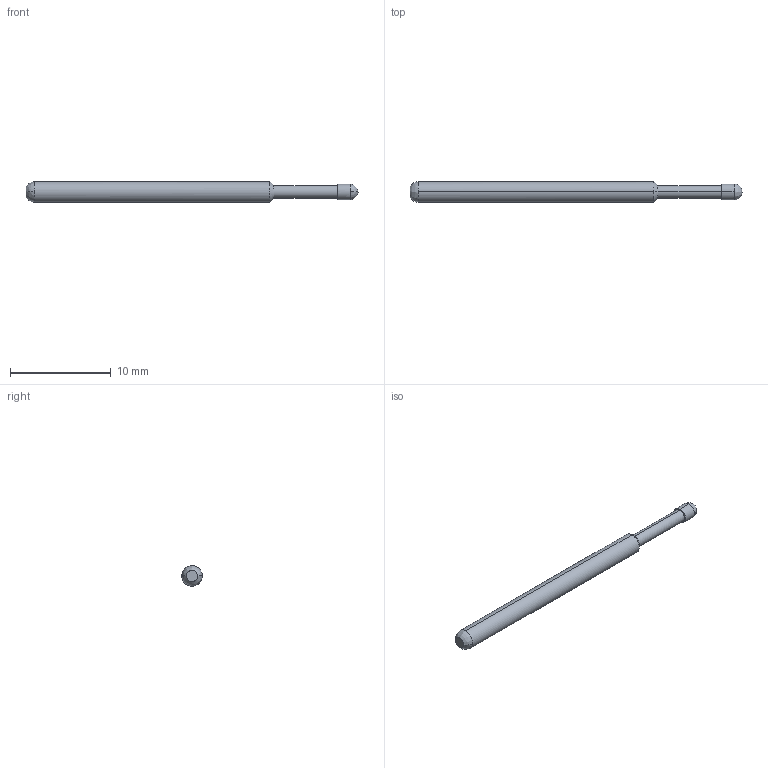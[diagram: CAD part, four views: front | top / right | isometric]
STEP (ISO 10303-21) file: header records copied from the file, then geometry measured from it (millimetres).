
FILE_DESCRIPTION (( 'STEP AP214' ), '1' );
FILE_NAME ('PA5D.STEP', '2024-09-04T13:49:36', ( '' ), ( '' ), 'SwSTEP 2.0', 'SolidWorks 2024', '' );
FILE_SCHEMA (( 'AUTOMOTIVE_DESIGN' ));
Length unit declared in the file: inch
Products named in the file (1): PA5D
Bounding box: 33.02 x 2.03 x 2.03 mm (x, y, z)
Volume: 90.4 mm3; surface area: 194.8 mm2
Topology: 1 solids, 1 shells, 14 faces, 32 edges, 19 vertices
Faces by surface type: bspline 14
Entity records: 546 total; most frequent: CARTESIAN_POINT 344, ORIENTED_EDGE 60, EDGE_CURVE 30, VERTEX_POINT 19, EDGE_LOOP 15, FACE_OUTER_BOUND 14, ADVANCED_FACE 14, B_SPLINE_CURVE_WITH_KNOTS 13
